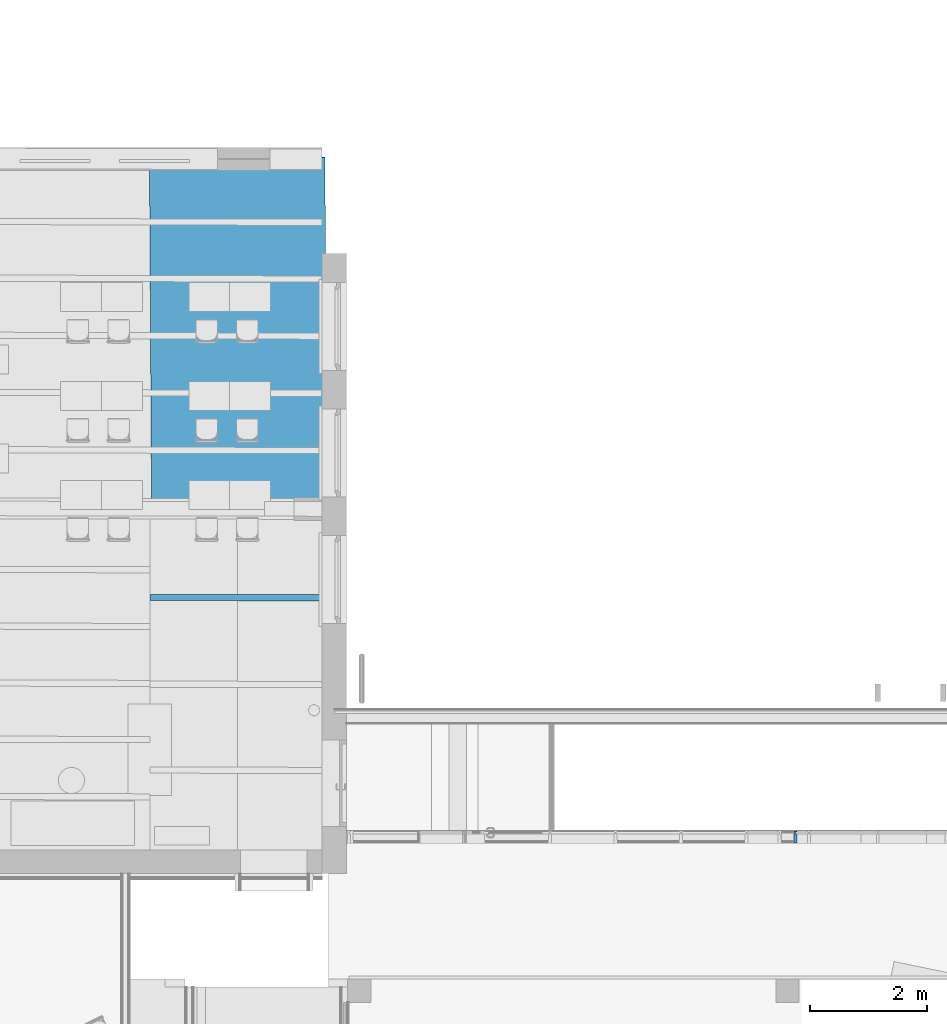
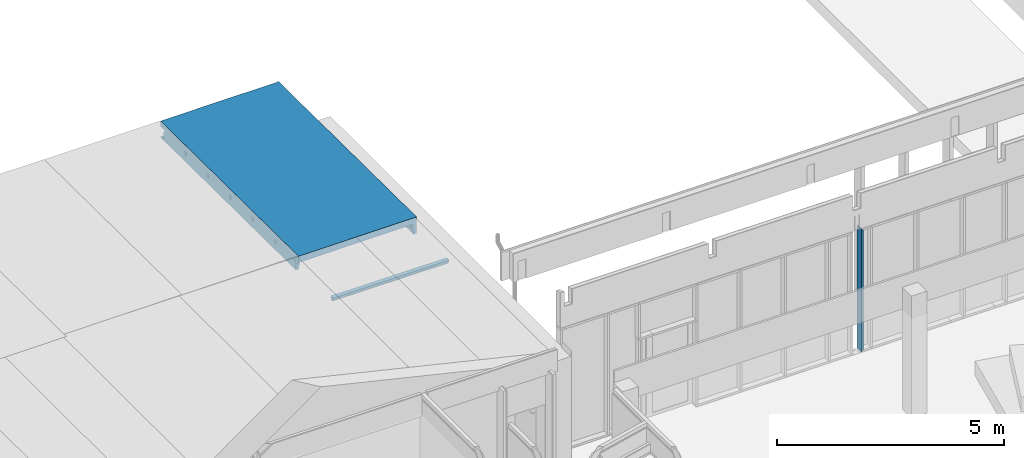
# One storey, part 29 of 153: 2 beams, 1 member, 1 element without a shape of its own.
"""IFC2X3 building model written with IfcOpenShell, lengths in millimetres."""

from ifc_helpers import new_model, entity, si_unit, converted_unit, derived_unit, money_unit, direction, frame, origin_with_axes, place, context, subcontext, project, spatial, faceted_brep, material, type_object, element, aggregate, save


model = new_model("IFC2X3")

# Units and contexts
model_context = context("Model", 3, precision=0.01, world=origin_with_axes(), true_north=direction((0.0, 1.0)))
body_context = subcontext(model_context, "Body", "Model", "MODEL_VIEW")
ifc_project = project(units=[si_unit("LENGTHUNIT", "METRE", prefix="MILLI"), si_unit("AREAUNIT", "SQUARE_METRE"), si_unit("VOLUMEUNIT", "CUBIC_METRE"), converted_unit("PLANEANGLEUNIT", "DEGREE", entity("IfcPlaneAngleMeasure", 0.0174532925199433), si_unit("PLANEANGLEUNIT", "RADIAN"), dimensions=[0, 0, 0, 0, 0, 0, 0]), money_unit("EUR"), converted_unit("TIMEUNIT", "Year", entity("IfcTimeMeasure", 31557600.0), si_unit("TIMEUNIT", "SECOND"), dimensions=[0, 0, 1, 0, 0, 0, 0]), si_unit("MASSUNIT", "GRAM", prefix="KILO"), si_unit("THERMODYNAMICTEMPERATUREUNIT", "DEGREE_CELSIUS"), si_unit("LUMINOUSINTENSITYUNIT", "LUMEN"), si_unit("ENERGYUNIT", "JOULE", prefix="MEGA"), derived_unit("THERMALCONDUCTANCEUNIT", [(si_unit("POWERUNIT", "WATT"), 1), (si_unit("LENGTHUNIT", "METRE"), -1), (si_unit("THERMODYNAMICTEMPERATUREUNIT", "KELVIN"), -1)]), derived_unit("SPECIFICHEATCAPACITYUNIT", [(si_unit("ENERGYUNIT", "JOULE"), 1), (si_unit("MASSUNIT", "GRAM", prefix="KILO"), -1), (si_unit("THERMODYNAMICTEMPERATUREUNIT", "KELVIN"), -1)]), derived_unit("MASSDENSITYUNIT", [(si_unit("MASSUNIT", "GRAM", prefix="KILO"), 1), (si_unit("VOLUMEUNIT", "CUBIC_METRE"), -1)])], contexts=[model_context])

# Site, building, storey
site_placement = place(None, frame((0.0, 0.0, 8650.0), z_axis=(0.0, 0.0, 1.0), x_axis=(1.0, 0.0, 0.0)))
site = spatial("IfcSite", under=ifc_project, at=site_placement, Name="43301:001:0844", CompositionType="ELEMENT")
building_placement = place(site_placement, origin_with_axes())
building = spatial("IfcBuilding", under=site, at=building_placement, Name="Kuressaare Ametikooli tuulikute mehaanikute õppekorpus", CompositionType="ELEMENT")
storey_placement = place(building_placement, frame((0.0, 0.0, 4100.0), z_axis=(0.0, 0.0, 1.0), x_axis=(1.0, 0.0, 0.0)))
storey = spatial("IfcBuildingStorey", under=building, at=storey_placement, Name="2.korrus", CompositionType="ELEMENT", Elevation=4100.0)

# Curtain wall, member
curtain_wall_type = type_object("IfcCurtainWallType", Name="Curtain Wall Type", PredefinedType="NOTDEFINED")
curtain_wall_placement = place(storey_placement, frame((116907.3849272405, 26479.57374875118, 34.9999663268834), z_axis=(0.0, 0.0, 1.0), x_axis=(1.0, 0.0, 0.0)))
curtain_wall = element("IfcCurtainWall", 1, at=curtain_wall_placement, inside=storey, type_object=curtain_wall_type, Name="SKF-2.2,EI60")
ifc_material_1 = material(Name="Aluminium")
member_type = type_object("IfcMemberType", Name="Boundary Frame 50 x 200", PredefinedType="NOTDEFINED")
member_placement = place(curtain_wall_placement, frame((-5554.435552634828, 0.0, 0.0), z_axis=(0.0, 0.0, 1.0), x_axis=(-1.0, 0.0, 0.0)))
member = element("IfcMember", 2, at=member_placement, type_object=member_type, material=ifc_material_1, context=body_context, shape_type="Brep", body=[
    faceted_brep([(-4.999999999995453, 19.99999999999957, 3254.99998313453), (-4.999999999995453, -19.99999999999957, 3254.99998313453), (-25.00000000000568, -19.99999999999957, 3234.99998313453), (-25.00000000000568, -30.00000000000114, 3234.99998313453), (25.00000000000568, -30.00000000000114, 3284.99998313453), (25.00000000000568, 170.0000000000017, 3284.99998313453), (-25.00000000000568, 170.0000000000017, 3234.99998313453), (-25.00000000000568, 19.99999999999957, 3234.99998313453), (-4.999999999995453, 19.99999999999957, 4.999999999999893), (-4.999999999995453, -19.99999999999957, 4.999999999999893), (-25.00000000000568, -19.99999999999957, 24.99999999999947), (-25.00000000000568, -30.00000000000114, 24.99999999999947), (25.00000000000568, -30.00000000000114, -24.99999999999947), (25.00000000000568, 170.0000000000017, -24.99999999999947), (-25.00000000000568, 170.0000000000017, 25.00000000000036), (-25.00000000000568, 19.99999999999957, 24.99999999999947)], [[[0, 1, 2, 3, 4, 5, 6, 7]], [[1, 0, 8, 9]], [[10, 2, 1, 9]], [[2, 10, 11, 3]], [[4, 3, 11, 12]], [[5, 4, 12, 13]], [[6, 5, 13, 14]], [[15, 7, 6, 14]], [[0, 7, 15, 8]], [[8, 15, 14, 13, 12, 11, 10, 9]]]),
])
aggregate(curtain_wall, [member])

# Beams
ifc_material_2 = material(Name="GENEERILINE - KONSTRUKTRIOON")
beam_type_1 = type_object("IfcBeamType", Name="Precast Single Tee 2 107 x 102", PredefinedType="NOTDEFINED")
beam_1_placement = place(storey_placement, frame((100281.4897998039, 30521.65020388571, 2805.133663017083), z_axis=(0.0, 0.0, 1.0), x_axis=(-0.002672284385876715, -0.9999964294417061, 0.0)))
element("IfcBeam", 3, at=beam_1_placement, inside=storey, type_object=beam_type_1, material=ifc_material_2, context=body_context, shape_type="Brep", body=[
    faceted_brep([(45.31502884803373, 0.0, -5.574334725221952), (45.31502884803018, 2950.010533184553, -5.574334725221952), (53.51387546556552, 2950.010533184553, 0.0), (53.51387546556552, 0.0, 0.0), (40.74041549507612, 0.0, -14.37019773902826), (40.74041549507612, 2950.010533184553, -14.37019773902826), (20.00045776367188, 2950.010533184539, -101.9474782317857), (-19.99954223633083, 2950.010533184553, -101.9474782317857), (-40.74046173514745, 2950.010533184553, -14.37000248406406), (-45.31509550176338, 2950.010533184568, -5.574259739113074), (-53.51387546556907, 2950.010533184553, 0.0), (-53.51387546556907, 0.0, 0.0), (-45.31509550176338, 0.0, -5.574259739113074), (-40.74046173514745, 0.0, -14.37000248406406), (-19.99954223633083, 0.0, -101.9474782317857), (20.00045776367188, 0.0, -101.9474782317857)], [[[0, 1, 2, 3]], [[4, 5, 1, 0]], [[2, 1, 5, 6, 7, 8, 9, 10]], [[3, 2, 10, 11]], [[4, 0, 3, 11, 12, 13, 14, 15]], [[15, 6, 5, 4]], [[14, 7, 6, 15]], [[13, 8, 7, 14]], [[12, 9, 8, 13]], [[11, 10, 9, 12]]]),
])
beam_type_2 = type_object("IfcBeamType", Name="Precast Double Tee 4 3012 x 440", PredefinedType="NOTDEFINED")
beam_2_placement = place(storey_placement, frame((101776.0124999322, 38067.25329041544, 2975.0), z_axis=(0.0, 0.0, 1.0), x_axis=(-0.9999823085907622, -0.005948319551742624, 0.0)))
element("IfcBeam", 4, at=beam_2_placement, inside=storey, type_object=beam_type_2, material=ifc_material_2, context=body_context, shape_type="Brep", body=[
    faceted_brep([(-1451.603823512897, 0.0, -420.0865585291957), (-1451.603823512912, 0.0, -415.0001340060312), (-1482.770179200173, 0.0, -415.0001340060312), (-1482.770179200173, 0.0, 0.0), (-1505.81722662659, 0.0, 0.0), (-1505.81722662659, 0.0, -440.0001340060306), (-1430.817223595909, 0.0, -440.0001340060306), (-1427.684091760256, 0.0, -420.0865585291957), (-1451.533628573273, 8.634338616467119, -144.9098486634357), (-1451.533628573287, 8.634338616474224, -415.0001340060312), (-1450.420668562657, 145.5341443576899, -420.0865585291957), (-1450.420664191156, 145.5346820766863, -242.5188171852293), (-1450.212614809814, 171.1258260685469, -197.4581574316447), (-1449.955134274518, 202.7972562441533, -156.4427065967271), (-1449.8660145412, 213.7594418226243, -144.9098486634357), (-1482.717715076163, 8.81983480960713, -415.0001340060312), (-1482.717715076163, 8.81983480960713, 0.0), (0.0, 0.0, 0.0), (1505.817226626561, 0.0, 0.0), (1505.817226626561, 6026.753874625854, 0.0), (-1505.81722662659, 6026.753874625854, 0.0), (-1505.81722662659, 6026.753874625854, -440.0001340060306), (-1430.817223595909, 6026.753874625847, -440.0001340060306), (-1396.144696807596, 1150.643913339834, -219.628309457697), (-1404.355380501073, 1138.355721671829, -271.8138152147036), (-1404.355380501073, 1098.354235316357, -271.8138152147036), (-1396.144696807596, 1085.923931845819, -219.628309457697), (-1396.144696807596, 158.094418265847, -219.628309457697), (-1399.746208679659, 145.1227118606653, -242.5188171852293), (-1427.68409176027, 145.3493018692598, -420.0865585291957), (-1415.692909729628, 6026.753874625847, -343.8729419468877), (-1416.44757222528, 5927.553956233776, -348.6694297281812), (-1403.666044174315, 5927.45647485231, -267.4325278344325), (-1396.57635865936, 5901.809809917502, -222.3718680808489), (-1396.144696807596, 5899.687865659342, -219.628309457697), (-1396.144696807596, 5067.360985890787, -219.628309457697), (-1404.355380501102, 5055.072794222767, -271.8138152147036), (-1404.355380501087, 5015.071307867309, -271.8138152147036), (-1396.144696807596, 5002.641004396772, -219.628309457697), (-1396.14469680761, 4084.63490129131, -219.628309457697), (-1404.355380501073, 4072.346709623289, -271.8138152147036), (-1404.355380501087, 4032.345223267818, -271.8138152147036), (-1396.144696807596, 4019.914919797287, -219.628309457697), (-1396.144696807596, 3104.065988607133, -219.628309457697), (-1404.355380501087, 3091.777796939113, -271.8138152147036), (-1404.355380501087, 3051.776310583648, -271.8138152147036), (-1396.144696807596, 3039.34600711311, -219.628309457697), (-1396.144696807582, 2123.123195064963, -219.628309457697), (-1404.355380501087, 2110.835003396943, -271.8138152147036), (-1404.355380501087, 2070.833517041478, -271.8138152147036), (-1396.144696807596, 2058.403213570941, -219.628309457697), (0.0, 0.0, -144.9098486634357), (-1390.121046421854, 169.111073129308, -200.145341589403), (-1388.022650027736, 170.620237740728, -197.4581574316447), (1360.269640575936, 167.59932306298, -172.4372542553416), (1376.104194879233, 161.3693141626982, -180.3380699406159), (1387.903755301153, 151.0890768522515, -193.5261847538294), (1389.347021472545, 148.0409406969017, -197.4581574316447), (1505.817226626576, 147.0940680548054, -197.4581574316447), (1505.817226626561, 178.7675914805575, -156.4427065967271), (-1377.569867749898, 180.8721682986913, -184.0724353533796), (-1360.128065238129, 188.8902907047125, -173.505793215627), (-1340.070370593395, 191.5708189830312, -169.8234995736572), (1342.636896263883, 168.899046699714, -170.9398142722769), (1505.817226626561, 189.7305015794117, -144.9098486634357), (1505.817226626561, 0.0, -144.9098486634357), (1505.817226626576, 121.5006949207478, -420.0865585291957), (1505.817226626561, 0.0, -420.0865585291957), (1505.817226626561, 0.0, -440.0001340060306), (1505.817226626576, 5905.323129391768, -440.0001340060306), (1505.817226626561, 5905.322606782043, -267.4325278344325), (1505.817226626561, 5879.72987656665, -222.3718680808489), (1505.817226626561, 5848.056483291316, -181.3564172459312), (1505.817226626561, 5837.093618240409, -169.8235593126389), (1505.817226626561, 6026.753874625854, -169.8235593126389), (1505.817226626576, 121.5012326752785, -242.5188171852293), (1505.817226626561, 5063.499278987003, -169.8663369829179), (1505.817226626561, 5055.300127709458, -175.4406717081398), (1505.817226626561, 5050.725344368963, -184.2365347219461), (1505.817226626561, 5029.984615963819, -271.8138152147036), (1505.817226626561, 4989.983129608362, -271.8138152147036), (1505.817226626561, 4969.241439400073, -184.2363394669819), (1505.817226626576, 4964.666635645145, -175.4405967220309), (1505.817226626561, 4956.467551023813, -169.8663369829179), (1505.817226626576, 4072.574043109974, -175.4406717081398), (1505.817226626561, 4067.999259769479, -184.2365347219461), (1505.817226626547, 4047.258531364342, -271.8138152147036), (1505.817226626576, 4007.257045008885, -271.8138152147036), (1505.817226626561, 3986.515354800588, -184.2363394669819), (1505.817226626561, 3981.940551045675, -175.4405967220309), (1505.817226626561, 3973.741466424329, -169.8663369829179), (1505.817226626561, 4080.773194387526, -169.8663369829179), (1505.817226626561, 3087.430347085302, -184.2365347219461), (1505.817226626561, 3066.689618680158, -271.8138152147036), (1505.817226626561, 3026.688132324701, -271.8138152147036), (1505.817226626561, 3005.946442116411, -184.2363394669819), (1505.817226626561, 3001.371638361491, -175.4405967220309), (1505.817226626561, 2993.172553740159, -169.8663369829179), (1505.817226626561, 3100.204281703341, -169.8663369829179), (1505.817226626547, 3092.005130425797, -175.4406717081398), (1505.817226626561, 2085.746825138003, -271.8138152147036), (1505.817226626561, 2045.745338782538, -271.8138152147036), (1505.817226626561, 2025.003648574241, -184.2363394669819), (1505.817226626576, 2020.428844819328, -175.4405967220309), (1505.817226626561, 2012.229760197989, -169.8663369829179), (1505.817226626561, 2119.261488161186, -169.8663369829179), (1505.817226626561, 2111.062336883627, -175.4406717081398), (1505.817226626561, 2106.48755354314, -184.2365347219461), (1505.817226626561, 1073.266057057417, -271.8138152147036), (1505.817226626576, 1052.52436684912, -184.2363394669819), (1505.817226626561, 1047.949563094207, -175.4405967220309), (1505.817226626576, 1039.750478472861, -169.8663369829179), (1505.817226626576, 1146.782206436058, -169.8663369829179), (1505.817226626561, 1138.583055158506, -175.4406717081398), (1505.817226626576, 1134.008271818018, -184.2365347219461), (1505.817226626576, 1113.267543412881, -271.8138152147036), (-1415.692909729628, 6026.753874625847, -169.8235593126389), (-1444.519809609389, 1159.442701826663, -184.2365347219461), (-1444.69859914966, 1138.703514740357, -271.8138152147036), (-1390.121046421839, 1155.206091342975, -200.145341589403), (-1377.698011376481, 1158.866640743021, -184.2365347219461), (-1445.043420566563, 1098.705001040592, -271.8138152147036), (-1377.697858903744, 1077.382734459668, -184.2363394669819), (-1390.121046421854, 1081.257692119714, -200.145341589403), (-1445.222218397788, 1077.964852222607, -184.2363394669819), (-1416.966595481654, 5859.328670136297, -169.8235593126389), (-1416.883200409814, 5870.290900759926, -181.3564172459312), (-1416.642259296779, 5901.962461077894, -222.3718680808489), (-1416.447574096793, 5927.553710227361, -267.4325278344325), (-1373.086678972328, 5869.957719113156, -181.3564172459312), (-1377.569867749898, 5872.089217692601, -184.0724353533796), (-1390.121046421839, 5884.596693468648, -200.145341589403), (-1390.121046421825, 5071.923163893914, -200.145341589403), (-1377.698011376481, 5075.583713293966, -184.2365347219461), (-1413.37803860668, 5075.891305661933, -184.2365347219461), (-1413.556828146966, 5055.152118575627, -271.8138152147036), (-1413.901649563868, 5015.153604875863, -271.8138152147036), (-1414.080447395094, 4994.413456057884, -184.2363394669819), (-1377.697858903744, 4994.099807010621, -184.2363394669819), (-1390.121046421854, 4997.974764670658, -200.145341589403), (-1390.121046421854, 4089.197079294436, -200.145341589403), (-1377.698011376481, 4092.857628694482, -184.2365347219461), (-1421.849348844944, 4093.238251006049, -184.2365347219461), (-1422.02813838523, 4072.499063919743, -271.8138152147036), (-1422.372959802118, 4032.500550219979, -271.8138152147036), (-1422.551757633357, 4011.760401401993, -184.2363394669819), (-1377.697858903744, 4011.373722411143, -184.2363394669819), (-1390.121046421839, 4015.248680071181, -200.145341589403), (-1390.121046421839, 3108.628166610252, -200.145341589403), (-1377.698011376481, 3112.288716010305, -184.2365347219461), (-1430.302063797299, 3112.742207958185, -184.2365347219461), (-1430.480853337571, 3092.003020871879, -271.8138152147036), (-1430.825674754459, 3052.004507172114, -271.8138152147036), (-1431.004472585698, 3031.264358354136, -184.2363394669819), (-1377.697858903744, 3030.804809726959, -184.2363394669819), (-1390.121046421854, 3034.679767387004, -200.145341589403), (-1390.121046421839, 2127.685373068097, -200.145341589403), (-1377.698011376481, 2131.345922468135, -184.2365347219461), (-1436.136829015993, 2131.849715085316, -184.2365347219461), (-1436.315618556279, 2111.11052799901, -271.8138152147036), (-1436.660439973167, 2071.112014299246, -271.8138152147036), (-1436.839237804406, 2050.37186548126, -184.2363394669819), (-1377.697858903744, 2049.862016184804, -184.2363394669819), (-1390.121046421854, 2053.736973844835, -200.145341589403), (-1377.569867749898, 1077.296381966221, -184.0724353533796), (1360.269640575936, 1044.786742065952, -172.4372542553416), (1366.288840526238, 1049.152417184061, -175.4405967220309), (1376.104194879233, 1051.61505306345, -180.3380699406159), (1379.592022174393, 1053.612536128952, -184.2363394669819), (1387.903755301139, 1055.741071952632, -193.5261847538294), (1394.00150495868, 1059.622966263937, -210.1386333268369), (1394.00150495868, 140.8010463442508, -210.1386333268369), (1399.892011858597, 122.3623772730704, -242.5188171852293), (-1363.321744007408, 1072.683996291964, -175.4405967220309), (-1360.128065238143, 1069.810594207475, -173.505793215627), (-1340.303708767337, 1064.286476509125, -169.8663369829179), (-1340.303708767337, 1171.318204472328, -169.8663369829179), (-1360.128065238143, 1166.135921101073, -173.505793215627), (-1360.128065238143, 2042.289875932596, -173.505793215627), (-1340.303708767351, 2036.76575823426, -169.8663369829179), (-1340.303708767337, 2143.797486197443, -169.8663369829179), (-1360.128065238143, 2138.615202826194, -173.505793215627), (-1360.128065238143, 3023.232669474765, -173.505793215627), (-1340.303708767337, 3017.708551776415, -169.8663369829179), (-1340.303708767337, 3124.740279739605, -169.8663369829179), (-1360.128065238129, 3119.557996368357, -173.505793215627), (-1360.128065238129, 4003.801582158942, -173.505793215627), (-1340.303708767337, 3998.2774644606, -169.8663369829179), (-1340.303708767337, 4105.309192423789, -169.8663369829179), (-1360.128065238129, 4100.126909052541, -173.505793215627), (-1360.128065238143, 4986.527666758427, -173.505793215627), (-1340.303708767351, 4981.003549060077, -169.8663369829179), (-1340.303708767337, 5088.035277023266, -169.8663369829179), (-1360.128065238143, 5082.852993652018, -173.505793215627), (-1360.128065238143, 5862.396516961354, -173.505793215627), (-1340.070370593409, 5858.743682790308, -169.8235593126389), (1342.636896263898, 1146.610009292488, -170.9398142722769), (-1237.26784809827, 1170.429947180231, -169.8663369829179), (-1237.267848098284, 1063.398219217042, -169.8663369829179), (1342.636896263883, 1042.73619219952, -170.9398142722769), (1342.636896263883, 5839.396097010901, -170.9398142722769), (1342.636896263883, 5063.327081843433, -170.9398142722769), (-1237.26784809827, 5087.147019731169, -169.8663369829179), (-1237.26784809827, 4980.115291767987, -169.8663369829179), (1342.636896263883, 4959.453264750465, -170.9398142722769), (1342.636896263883, 4080.600997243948, -170.9398142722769), (-1237.267848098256, 4104.420935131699, -169.8663369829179), (-1237.267848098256, 3997.389207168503, -169.8663369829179), (1342.636896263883, 3976.727180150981, -170.9398142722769), (1342.636896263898, 3100.032084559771, -170.9398142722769), (-1237.267848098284, 3123.852022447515, -169.8663369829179), (-1237.267848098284, 3016.820294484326, -169.8663369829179), (1342.636896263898, 2996.158267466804, -170.9398142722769), (1342.636896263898, 2119.089291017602, -170.9398142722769), (-1237.26784809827, 2142.909228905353, -169.8663369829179), (-1237.26784809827, 2035.877500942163, -169.8663369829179), (1342.636896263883, 2015.215473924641, -170.9398142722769), (1432.194608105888, 122.0992277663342, -420.0865585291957), (1432.194608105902, 0.0, -420.0865585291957), (1435.817226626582, 0.0, -440.0001340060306), (1435.817226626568, 5905.855653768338, -440.0001340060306), (1404.424240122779, 5906.093953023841, -267.4325278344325), (1396.226938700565, 5880.56358370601, -222.3718680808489), (1394.001504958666, 5871.13363335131, -210.1386333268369), (1387.903755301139, 5858.351377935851, -193.5261847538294), (1377.015322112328, 5849.036342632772, -181.3564172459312), (1376.104194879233, 5848.075256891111, -180.3380699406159), (1360.269640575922, 5840.685387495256, -172.4372542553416), (1360.269640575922, 5060.972525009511, -172.4372542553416), (1366.288990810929, 5056.50298050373, -175.4406717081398), (1376.104194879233, 5053.871197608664, -180.3380699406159), (1379.592196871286, 5051.813512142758, -184.2365347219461), (1387.903755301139, 5049.541812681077, -193.5261847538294), (1394.00150495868, 5045.554956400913, -210.1386333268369), (1405.221270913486, 5030.851839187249, -271.8138152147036), (1405.221270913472, 4990.850352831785, -271.8138152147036), (1387.903755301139, 4972.458144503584, -193.5261847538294), (1379.592022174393, 4970.32960867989, -184.2363394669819), (1394.00150495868, 4976.340038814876, -210.1386333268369), (1376.104194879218, 4968.332125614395, -180.3380699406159), (1366.288840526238, 4965.869489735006, -175.4405967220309), (1360.269640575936, 4961.503814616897, -172.4372542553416), (1366.288990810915, 4073.776895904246, -175.4406717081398), (1376.104194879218, 4071.145113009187, -180.3380699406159), (1379.592196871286, 4069.087427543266, -184.2365347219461), (1387.903755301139, 4066.815728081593, -193.5261847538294), (1394.00150495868, 4062.828871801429, -210.1386333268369), (1405.221270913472, 4048.125754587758, -271.8138152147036), (1405.221270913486, 4008.124268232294, -271.8138152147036), (1379.592022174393, 3987.603524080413, -184.2363394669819), (1394.001504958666, 3993.613954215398, -210.1386333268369), (1387.903755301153, 3989.7320599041, -193.5261847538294), (1376.104194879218, 3985.606041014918, -180.3380699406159), (1366.288840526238, 3983.143405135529, -175.4405967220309), (1360.269640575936, 3978.777730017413, -172.4372542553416), (1360.26964057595, 4078.246440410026, -172.4372542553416), (1394.001504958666, 3082.259959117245, -210.1386333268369), (1405.221270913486, 3067.556841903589, -271.8138152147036), (1379.592196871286, 3088.518514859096, -184.2365347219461), (1387.903755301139, 3086.246815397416, -193.5261847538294), (1405.221270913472, 3027.555355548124, -271.8138152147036), (1394.00150495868, 3013.045041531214, -210.1386333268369), (1387.903755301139, 3009.163147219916, -193.5261847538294), (1379.592022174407, 3007.034611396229, -184.2363394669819), (1366.288840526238, 3002.574492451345, -175.4405967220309), (1376.104194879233, 3005.037128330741, -180.3380699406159), (1360.269640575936, 2998.208817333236, -172.4372542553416), (1360.269640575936, 3097.67752772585, -172.4372542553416), (1366.288990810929, 3093.207983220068, -175.4406717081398), (1376.104194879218, 3090.576200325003, -180.3380699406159), (1405.221270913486, 2046.612562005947, -271.8138152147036), (1405.221270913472, 2086.614048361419, -271.8138152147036), (1394.00150495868, 2032.102247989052, -210.1386333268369), (1387.903755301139, 2028.220353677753, -193.5261847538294), (1379.592022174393, 2026.091817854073, -184.2363394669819), (1376.104194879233, 2024.094334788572, -180.3380699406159), (1366.288840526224, 2021.631698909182, -175.4405967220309), (1360.269640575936, 2017.266023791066, -172.4372542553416), (1366.288990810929, 2112.265189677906, -175.4406717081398), (1360.269640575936, 2116.734734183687, -172.4372542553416), (1379.592196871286, 2107.575721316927, -184.2365347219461), (1376.104194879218, 2109.633406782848, -180.3380699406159), (1387.903755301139, 2105.304021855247, -193.5261847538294), (1394.00150495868, 2101.317165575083, -210.1386333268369), (1405.221270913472, 1074.133280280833, -271.8138152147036), (1360.269640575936, 1144.255452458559, -172.4372542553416), (1366.288990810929, 1139.785907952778, -175.4406717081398), (1376.104194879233, 1137.15412505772, -180.3380699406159), (1379.592196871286, 1135.096439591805, -184.2365347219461), (1387.903755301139, 1132.824740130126, -193.5261847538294), (1394.00150495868, 1128.837883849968, -210.1386333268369), (1405.221270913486, 1114.134766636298, -271.8138152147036), (-1444.480373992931, 1164.017145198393, -175.4406717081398), (-1444.409695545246, 1172.215687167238, -169.8663369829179), (-1445.332332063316, 1065.19191312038, -169.8663369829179), (-1445.261654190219, 1073.390388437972, -175.4405967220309), (-1377.569867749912, 2049.775663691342, -184.0724353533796), (-1377.569867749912, 1158.950885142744, -184.0724353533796), (-1363.321867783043, 1163.317489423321, -175.4406717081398), (-1363.321867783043, 5080.034561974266, -175.4406717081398), (-1377.569867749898, 5075.667957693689, -184.0724353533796), (-1413.338602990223, 5080.465749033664, -175.4406717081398), (-1414.190561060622, 4981.640516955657, -169.8663369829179), (-1414.11988318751, 4989.838992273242, -175.4405967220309), (-1413.267924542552, 5088.664291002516, -169.8663369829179), (-1363.321744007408, 4989.401068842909, -175.4405967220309), (-1377.569867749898, 4994.013454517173, -184.0724353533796), (-1377.569867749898, 4092.941873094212, -184.0724353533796), (-1363.321867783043, 4097.308477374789, -175.4406717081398), (-1421.809913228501, 4097.81269437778, -175.4406717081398), (-1422.591193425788, 4007.185937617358, -175.4405967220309), (-1421.739234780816, 4106.011236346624, -169.8663369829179), (-1422.661871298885, 3998.987462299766, -169.8663369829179), (-1377.569867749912, 4011.287369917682, -184.0724353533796), (-1363.321744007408, 4006.674984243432, -175.4405967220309), (-1377.569867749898, 3112.372960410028, -184.0724353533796), (-1363.321867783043, 3116.739564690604, -175.4406717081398), (-1430.262628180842, 3117.316651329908, -175.4406717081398), (-1430.191949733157, 3125.51519329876, -169.8663369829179), (-1431.114586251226, 3018.491419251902, -169.8663369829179), (-1431.043908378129, 3026.689894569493, -175.4405967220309), (-1363.321744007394, 3026.106071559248, -175.4405967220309), (-1377.569867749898, 3030.718457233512, -184.0724353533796), (-1377.569867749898, 2131.430166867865, -184.0724353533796), (-1363.321867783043, 2135.796771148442, -175.4406717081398), (-1436.097393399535, 2136.42415845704, -175.4406717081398), (-1436.026714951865, 2144.622700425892, -169.8663369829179), (-1436.94935146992, 2037.598926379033, -169.8663369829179), (-1436.878673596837, 2045.797401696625, -175.4405967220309), (-1363.321744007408, 2045.163278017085, -175.4405967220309)], [[[0, 1, 2, 3, 4, 5, 6, 7]], [[8, 9, 1, 0, 10, 11, 12, 13, 14]], [[15, 2, 1, 9]], [[15, 16, 3, 2]], [[3, 16, 17, 18, 19, 20, 4]], [[4, 20, 21, 5]], [[5, 21, 22, 6]], [[23, 24, 25, 26, 27, 28, 29, 7, 6, 22, 30, 31, 32, 33, 34, 35, 36, 37, 38, 39, 40, 41, 42, 43, 44, 45, 46, 47, 48, 49, 50]], [[0, 7, 29, 10]], [[51, 17, 16, 15, 9, 8]], [[29, 28, 11, 10]], [[12, 11, 28, 27, 52, 53]], [[54, 55, 56, 57, 58, 59, 13, 12, 53, 60, 61, 62, 63]], [[59, 64, 14, 13]], [[65, 51, 8, 14, 64]], [[18, 17, 51, 65]], [[66, 67, 68, 69, 70, 71, 72, 73, 74, 19, 18, 65, 64, 59, 58, 75], [76, 77, 78, 79, 80, 81, 82, 83], [84, 85, 86, 87, 88, 89, 90, 91], [92, 93, 94, 95, 96, 97, 98, 99], [100, 101, 102, 103, 104, 105, 106, 107], [108, 109, 110, 111, 112, 113, 114, 115]], [[116, 30, 22, 21, 20, 19, 74]], [[117, 118, 24, 23, 119, 120]], [[118, 121, 25, 24]], [[122, 123, 26, 25, 121, 124]], [[52, 27, 26, 123]], [[31, 30, 116, 125, 126, 127, 128]], [[128, 32, 31]], [[32, 128, 127, 33]], [[34, 33, 127, 126, 129, 130, 131]], [[34, 131, 132, 35]], [[36, 35, 132, 133, 134, 135]], [[135, 136, 37, 36]], [[38, 37, 136, 137, 138, 139]], [[139, 140, 39, 38]], [[39, 140, 141, 142, 143, 40]], [[144, 41, 40, 143]], [[41, 144, 145, 146, 147, 42]], [[148, 43, 42, 147]], [[148, 149, 150, 151, 44, 43]], [[45, 44, 151, 152]], [[152, 153, 154, 155, 46, 45]], [[47, 46, 155, 156]], [[157, 158, 159, 48, 47, 156]], [[48, 159, 160, 49]], [[161, 162, 163, 50, 49, 160]], [[50, 163, 119, 23]], [[52, 123, 122, 164, 60, 53]], [[54, 165, 166, 167, 55]], [[55, 167, 168, 169, 56]], [[57, 56, 169, 170, 171]], [[172, 75, 58, 57, 171]], [[60, 164, 173, 174, 61]], [[174, 175, 176, 177, 178, 179, 180, 181, 182, 183, 184, 185, 186, 187, 188, 189, 190, 191, 192, 193, 194, 195, 62, 61]], [[196, 197, 198, 199, 63, 62, 195, 200, 201, 202, 203, 204, 205, 206, 207, 208, 209, 210, 211, 212, 213, 214, 215, 216]], [[54, 63, 199, 165]], [[217, 218, 67, 66]], [[67, 218, 219, 68]], [[69, 68, 219, 220]], [[221, 70, 69, 220]], [[222, 71, 70, 221]], [[223, 224, 225, 72, 71, 222]], [[200, 195, 73, 72, 225, 226, 227]], [[195, 125, 116, 74, 73]], [[172, 217, 66, 75]], [[202, 201, 228, 229, 77, 76]], [[77, 229, 230, 231, 78]], [[231, 232, 233, 234, 79, 78]], [[80, 79, 234, 235]], [[236, 237, 81, 80, 235, 238]], [[237, 239, 240, 82, 81]], [[204, 203, 83, 82, 240, 241]], [[76, 83, 203, 202]], [[242, 243, 244, 85, 84]], [[245, 246, 247, 86, 85, 244]], [[86, 247, 248, 87]], [[249, 88, 87, 248, 250, 251]], [[252, 253, 89, 88, 249]], [[207, 90, 89, 253, 254, 208]], [[90, 207, 206, 91]], [[205, 255, 242, 84, 91, 206]], [[256, 257, 93, 92, 258, 259]], [[257, 260, 94, 93]], [[95, 94, 260, 261, 262, 263]], [[264, 96, 95, 263, 265]], [[97, 96, 264, 266, 212, 211]], [[211, 210, 98, 97]], [[267, 268, 99, 98, 210, 209]], [[269, 258, 92, 99, 268]], [[270, 101, 100, 271]], [[101, 270, 272, 273, 274, 102]], [[103, 102, 274, 275, 276]], [[103, 276, 277, 216, 215, 104]], [[214, 105, 104, 215]], [[278, 106, 105, 214, 213, 279]], [[280, 107, 106, 278, 281]], [[271, 100, 107, 280, 282, 283]], [[284, 170, 169, 168, 109, 108]], [[109, 168, 167, 166, 110]], [[166, 165, 199, 198, 111, 110]], [[112, 111, 198, 197]], [[113, 112, 197, 196, 285, 286]], [[114, 113, 286, 287, 288]], [[115, 114, 288, 289, 290, 291]], [[108, 115, 291, 284]], [[118, 117, 292, 293, 294, 295, 124, 121]], [[296, 297, 120, 119, 163, 162]], [[292, 117, 120, 297, 298]], [[295, 173, 164, 122, 124]], [[125, 195, 194, 129, 126]], [[299, 300, 130, 129, 194, 193]], [[300, 133, 132, 131, 130]], [[134, 133, 300, 299, 301]], [[302, 303, 137, 136, 135, 134, 301, 304]], [[305, 306, 138, 137, 303]], [[140, 139, 138, 306, 307, 141]], [[141, 307, 308, 309, 142]], [[310, 145, 144, 143, 142, 309, 311, 312]], [[313, 146, 145, 310, 314]], [[147, 146, 313, 315, 149, 148]], [[315, 316, 317, 150, 149]], [[153, 152, 151, 150, 317, 318, 319, 320]], [[154, 153, 320, 321, 322]], [[154, 322, 323, 157, 156, 155]], [[324, 325, 158, 157, 323]], [[160, 159, 158, 325, 326, 327, 328, 161]], [[161, 328, 329, 296, 162]], [[170, 284, 291, 290, 272, 270, 271, 283, 261, 260, 257, 256, 250, 248, 247, 246, 238, 235, 234, 233, 223, 222, 221, 220, 219, 218, 217, 172, 171]], [[294, 175, 174, 173, 295]], [[294, 293, 176, 175]], [[293, 292, 298, 177, 176]], [[178, 177, 298, 297, 296, 329]], [[328, 327, 179, 178, 329]], [[179, 327, 326, 180]], [[180, 326, 325, 324, 181]], [[321, 182, 181, 324, 323, 322]], [[321, 320, 319, 183, 182]], [[184, 183, 319, 318]], [[185, 184, 318, 317, 316]], [[313, 314, 186, 185, 316, 315]], [[186, 314, 310, 312, 187]], [[311, 188, 187, 312]], [[308, 189, 188, 311, 309]], [[307, 306, 305, 190, 189, 308]], [[191, 190, 305, 303, 302]], [[302, 304, 192, 191]], [[301, 299, 193, 192, 304]], [[200, 227, 228, 201]], [[241, 255, 205, 204]], [[267, 209, 208, 254]], [[213, 212, 266, 279]], [[216, 277, 285, 196]], [[224, 223, 233, 232]], [[231, 230, 226, 225, 224, 232]], [[230, 229, 228, 227, 226]], [[243, 239, 237, 236, 245, 244]], [[238, 246, 245, 236]], [[255, 241, 240, 239, 243, 242]], [[256, 259, 251, 250]], [[252, 249, 251, 259, 258, 269]], [[254, 253, 252, 269, 268, 267]], [[282, 262, 261, 283]], [[263, 262, 282, 280, 281, 265]], [[264, 265, 281, 278, 279, 266]], [[273, 272, 290, 289]], [[273, 289, 288, 287, 275, 274]], [[275, 287, 286, 285, 277, 276]]]),
])

save(model, "model.ifc")
